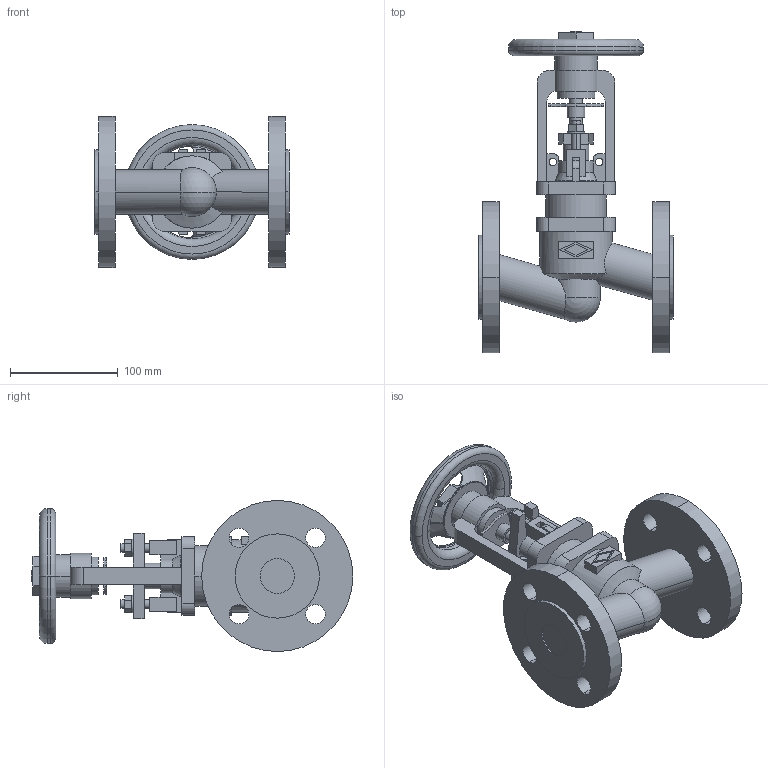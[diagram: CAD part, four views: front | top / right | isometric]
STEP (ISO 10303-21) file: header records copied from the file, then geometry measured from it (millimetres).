
FILE_DESCRIPTION(('OneSpaceDesigner STEP Export'),'2;1');
FILE_NAME('c000003727.stp','2009-06-15T12:37:33',(''),(''),'OneSpace Designer STEP processor for AP214 (Solid Model)','OneSpace Modeling 15.50B 03-Nov-2007 (C) CoCreate Software GmbH','');
FILE_SCHEMA(('AUTOMOTIVE_DESIGN { 1 0 10303 214 1 1 1 1 }'));
Length unit declared in the file: millimetre
Products named in the file (1): 1
Bounding box: 180 x 298 x 140 mm (x, y, z)
Volume: 1238804.7 mm3; surface area: 193361.3 mm2
Topology: 1 solids, 1 shells, 283 faces, 755 edges, 496 vertices
Faces by surface type: plane 140, cylinder 115, torus 14, cone 12, sphere 2
Entity records: 11157 total; most frequent: CARTESIAN_POINT 2143, ORIENTED_EDGE 1506, DIRECTION 1263, EDGE_CURVE 753, VERTEX_POINT 496, AXIS2_PLACEMENT_3D 423, VECTOR 417, LINE 417
